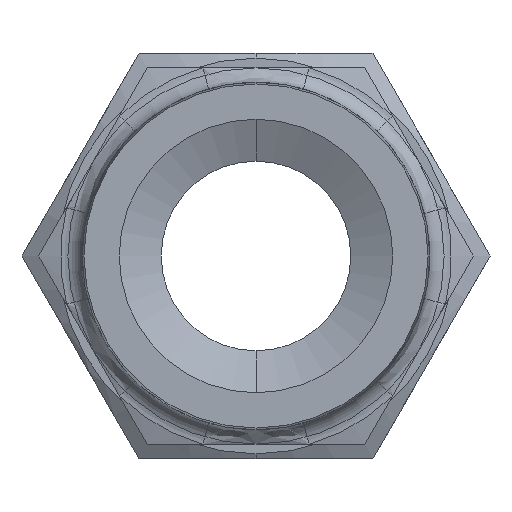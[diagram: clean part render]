
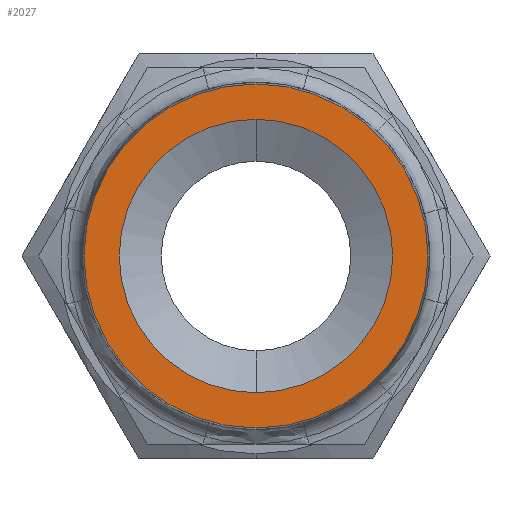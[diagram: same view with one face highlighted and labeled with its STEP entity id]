
A CAD part, left-side view. The second image highlights one B-rep face of the part: STEP entity #2027.
In plain terms, the highlighted planar face has unit normal (-1, 0, 0).
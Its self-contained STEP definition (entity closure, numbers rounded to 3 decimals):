
#464 = DIRECTION ( 'NONE',  ( 0., 0., 1. ) ) ;
#465 = DIRECTION ( 'NONE',  ( -1., 0., 0. ) ) ;
#466 = CARTESIAN_POINT ( 'NONE',  ( -25.2, 0., 0. ) ) ;
#467 = AXIS2_PLACEMENT_3D ( 'NONE', #466, #465, #464 ) ;
#468 = CIRCLE ( 'NONE', #467, 7.5 ) ;
#501 = DIRECTION ( 'NONE',  ( 0., 0., 1. ) ) ;
#502 = DIRECTION ( 'NONE',  ( -1., 0., 0. ) ) ;
#503 = AXIS2_PLACEMENT_3D ( 'NONE', #505, #502, #501 ) ;
#505 = CARTESIAN_POINT ( 'NONE',  ( -25.2, 0., 0. ) ) ;
#506 = PLANE ( 'NONE',  #503 ) ;
#507 = FACE_BOUND ( 'NONE', #1826, .T. ) ;
#508 = FACE_OUTER_BOUND ( 'NONE', #2028, .T. ) ;
#509 = DIRECTION ( 'NONE',  ( 0., 0., 1. ) ) ;
#510 = DIRECTION ( 'NONE',  ( -1., 0., 0. ) ) ;
#511 = CARTESIAN_POINT ( 'NONE',  ( -25.2, 0., 0. ) ) ;
#512 = AXIS2_PLACEMENT_3D ( 'NONE', #511, #510, #509 ) ;
#513 = CIRCLE ( 'NONE', #512, 7.5 ) ;
#554 = CARTESIAN_POINT ( 'NONE',  ( -25.2, 0., 7.5 ) ) ;
#555 = CARTESIAN_POINT ( 'NONE',  ( -25.2, 0., -7.5 ) ) ;
#824 = DIRECTION ( 'NONE',  ( 0., 0., 1. ) ) ;
#825 = DIRECTION ( 'NONE',  ( -1., 0., 0. ) ) ;
#826 = CARTESIAN_POINT ( 'NONE',  ( -25.2, 0., 0. ) ) ;
#827 = AXIS2_PLACEMENT_3D ( 'NONE', #826, #825, #824 ) ;
#832 = CIRCLE ( 'NONE', #827, 9.434 ) ;
#1117 = CARTESIAN_POINT ( 'NONE',  ( -25.2, 0., 9.434 ) ) ;
#1118 = CARTESIAN_POINT ( 'NONE',  ( -25.2, 0., -9.434 ) ) ;
#1119 = DIRECTION ( 'NONE',  ( 0., 0., 1. ) ) ;
#1120 = DIRECTION ( 'NONE',  ( -1., 0., 0. ) ) ;
#1121 = CARTESIAN_POINT ( 'NONE',  ( -25.2, 0., 0. ) ) ;
#1122 = AXIS2_PLACEMENT_3D ( 'NONE', #1121, #1120, #1119 ) ;
#1123 = CIRCLE ( 'NONE', #1122, 9.434 ) ;
#1825 = ORIENTED_EDGE ( 'NONE', *, *, #2419, .T. ) ;
#1826 = EDGE_LOOP ( 'NONE', ( #1827, #1828 ) ) ;
#1827 = ORIENTED_EDGE ( 'NONE', *, *, #2026, .F. ) ;
#1828 = ORIENTED_EDGE ( 'NONE', *, *, #2077, .F. ) ;
#2026 = EDGE_CURVE ( 'NONE', #2094, #2093, #513, .T. ) ;
#2027 = ADVANCED_FACE ( 'NONE', ( #508, #507 ), #506, .T. ) ;
#2028 = EDGE_LOOP ( 'NONE', ( #2275, #1825 ) ) ;
#2077 = EDGE_CURVE ( 'NONE', #2093, #2094, #468, .T. ) ;
#2093 = VERTEX_POINT ( 'NONE', #555 ) ;
#2094 = VERTEX_POINT ( 'NONE', #554 ) ;
#2275 = ORIENTED_EDGE ( 'NONE', *, *, #2276, .T. ) ;
#2276 = EDGE_CURVE ( 'NONE', #2421, #2420, #832, .T. ) ;
#2419 = EDGE_CURVE ( 'NONE', #2420, #2421, #1123, .T. ) ;
#2420 = VERTEX_POINT ( 'NONE', #1118 ) ;
#2421 = VERTEX_POINT ( 'NONE', #1117 ) ;
